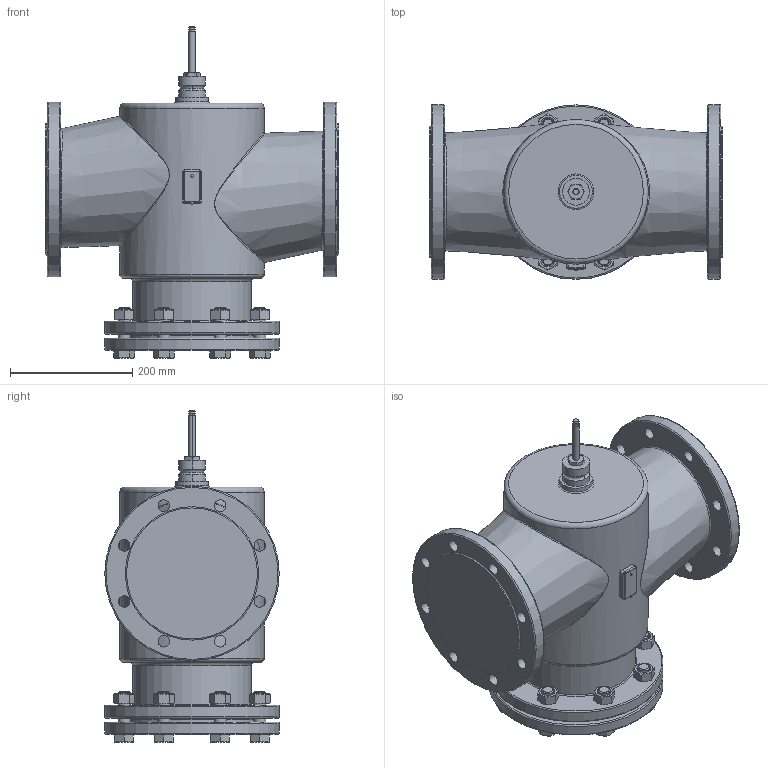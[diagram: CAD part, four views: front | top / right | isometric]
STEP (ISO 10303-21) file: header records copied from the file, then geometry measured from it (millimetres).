
FILE_DESCRIPTION(/* description */ (''),/* implementation_level */ '2;1');
FILE_NAME(/* name */ 'RAS_023470_00.stp',/* time_stamp */ '2012-12-12T11:35:06+01:00',/* author */ (''),/* organization */ (''),/* preprocessor_version */ 'ST-DEVELOPER v11',/* originating_system */ 'SIEMENS UGS NX 6.0',/* authorisation */ '');
FILE_SCHEMA (('AUTOMOTIVE_DESIGN { 1 0 10303 214 1 1 1 1 }'));
Length unit declared in the file: millimetre
Products named in the file (1): Ront155Awmfc
Bounding box: 480 x 285 x 542.5 mm (x, y, z)
Volume: 27881782.9 mm3; surface area: 870859.4 mm2
Topology: 1 solids, 2 shells, 461 faces, 1010 edges, 607 vertices
Faces by surface type: cone 176, plane 173, cylinder 82, torus 20, bspline 8, sphere 2
Full cylindrical faces by diameter (mm): 19 x16, 19.623 x24, 28 x8, 54 x1, 194 x1, 214 x3, 236 x1, 285 x4
Entity records: 16015 total; most frequent: CARTESIAN_POINT 4484, DIRECTION 1790, ORIENTED_EDGE 1778, EDGE_CURVE 889, AXIS2_PLACEMENT_3D 825, EDGE_LOOP 672, VERTEX_POINT 595, ADVANCED_FACE 461
